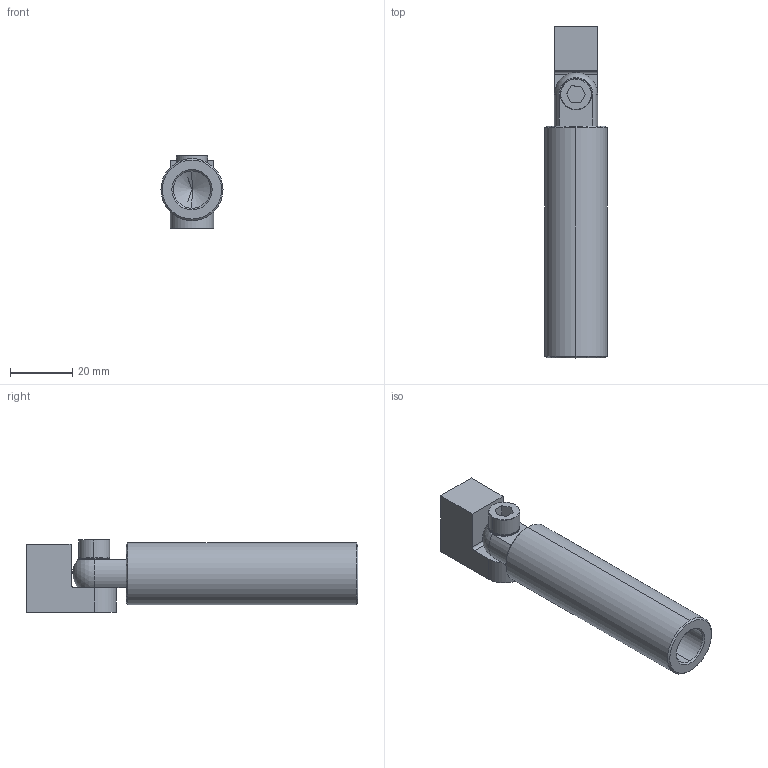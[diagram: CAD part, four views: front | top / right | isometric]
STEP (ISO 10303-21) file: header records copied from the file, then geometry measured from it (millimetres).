
FILE_DESCRIPTION (( 'STEP AP214' ), '1' );
FILE_NAME ('SEAV-G1820L78T.STEP', '2023-02-02T05:59:47', ( 'Windows User' ), ( 'P R C' ), 'SwSTEP 2.0', 'SolidWorks 2019', '' );
FILE_SCHEMA (( 'AUTOMOTIVE_DESIGN' ));
Length unit declared in the file: millimetre
Products named in the file (5): SEAV-G1820L78T; PTC-M6L14; SEAV-G1820L78.2; PTS-M6; SEAV-G1820L78.1
Assembly tree (4 placements, depth 2):
  SEAV-G1820L78T
    SEAV-G1820L78.1
    SEAV-G1820L78.2
    PTC-M6L14
    PTS-M6
Bounding box: 20 x 107 x 23.45 mm (x, y, z)
Volume: 22281.8 mm3; surface area: 12167.4 mm2
Topology: 4 solids, 4 shells, 227 faces, 638 edges, 416 vertices
Faces by surface type: plane 181, cylinder 25, cone 20, sphere 1
Entity records: 7531 total; most frequent: DIRECTION 1323, CARTESIAN_POINT 1291, ORIENTED_EDGE 1262, EDGE_CURVE 631, AXIS2_PLACEMENT_3D 460, VERTEX_POINT 414, LINE 403, VECTOR 403
